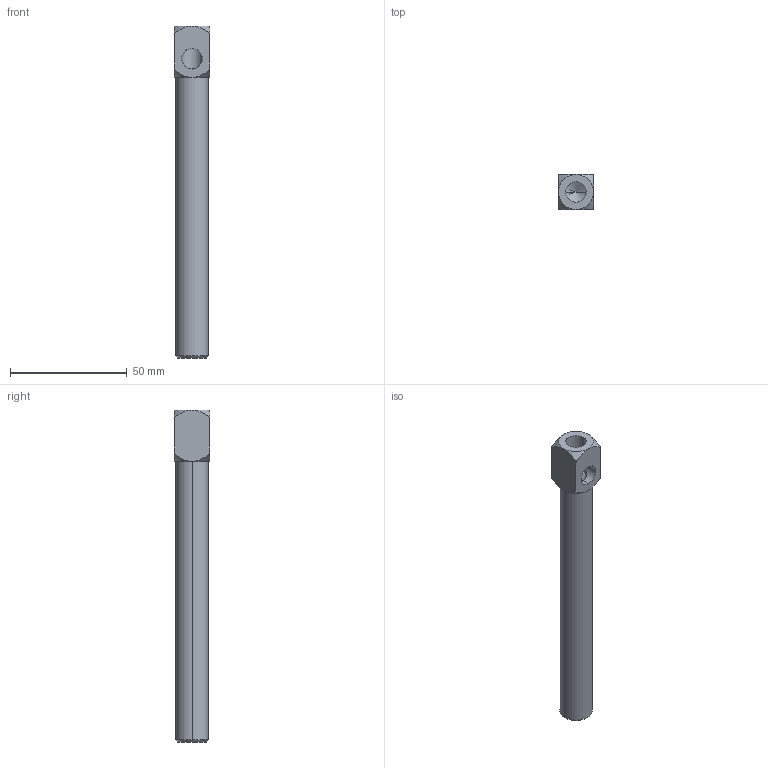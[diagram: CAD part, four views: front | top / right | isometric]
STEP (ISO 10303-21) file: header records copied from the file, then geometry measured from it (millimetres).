
FILE_DESCRIPTION (( 'STEP AP214' ), '1' );
FILE_NAME ('SVE-G1814120.STEP', '2023-01-29T03:35:06', ( 'Windows User' ), ( 'P R C' ), 'SwSTEP 2.0', 'SolidWorks 2019', '' );
FILE_SCHEMA (( 'AUTOMOTIVE_DESIGN' ));
Length unit declared in the file: millimetre
Products named in the file (1): SVE-G1814120
Bounding box: 15 x 15 x 142 mm (x, y, z)
Volume: 12884.2 mm3; surface area: 11006.6 mm2
Topology: 1 solids, 1 shells, 34 faces, 80 edges, 45 vertices
Faces by surface type: cone 16, cylinder 12, plane 6
Entity records: 1117 total; most frequent: CARTESIAN_POINT 350, DIRECTION 155, ORIENTED_EDGE 152, EDGE_CURVE 76, AXIS2_PLACEMENT_3D 66, VERTEX_POINT 45, EDGE_LOOP 37, FACE_OUTER_BOUND 34
